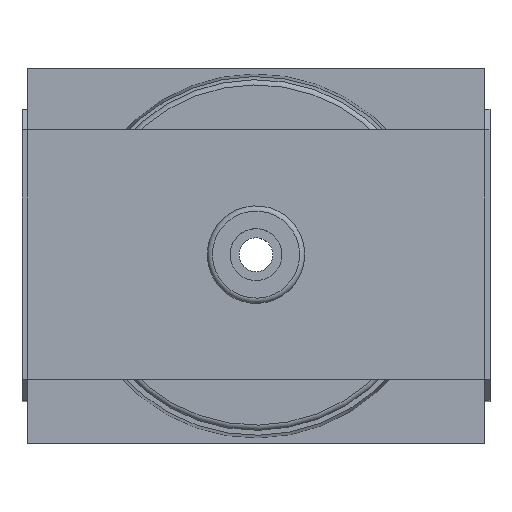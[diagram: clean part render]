
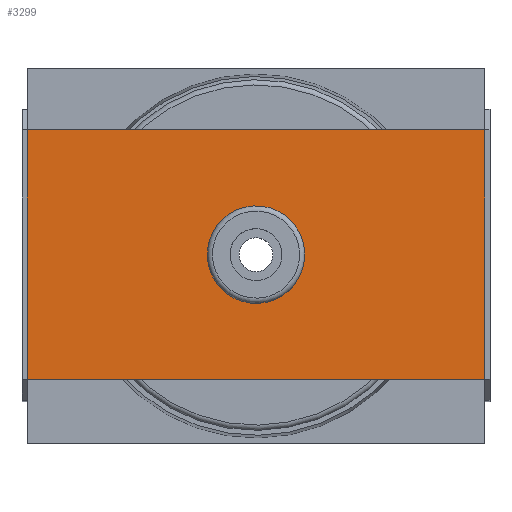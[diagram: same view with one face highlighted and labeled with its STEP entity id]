
A CAD part, top view. The second image highlights one B-rep face of the part: STEP entity #3299.
In plain terms, the highlighted planar face has unit normal (0, 0, 1).
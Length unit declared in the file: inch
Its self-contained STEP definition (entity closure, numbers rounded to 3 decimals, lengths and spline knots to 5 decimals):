
#115=FACE_BOUND('',#606,.T.);
#242=PLANE('',#3502);
#400=FACE_OUTER_BOUND('',#605,.T.);
#605=EDGE_LOOP('',(#2392,#2393,#2394,#2395));
#606=EDGE_LOOP('',(#2396));
#883=LINE('',#21129,#1127);
#885=LINE('',#21133,#1129);
#886=LINE('',#21135,#1130);
#887=LINE('',#21136,#1131);
#1127=VECTOR('',#3902,11.);
#1129=VECTOR('',#3906,6.);
#1130=VECTOR('',#3907,11.);
#1131=VECTOR('',#3908,6.);
#1299=CIRCLE('',#3491,0.9375);
#1470=VERTEX_POINT('',#21090);
#1483=VERTEX_POINT('',#21126);
#1484=VERTEX_POINT('',#21128);
#1485=VERTEX_POINT('',#21132);
#1486=VERTEX_POINT('',#21134);
#1807=EDGE_CURVE('',#1470,#1470,#1299,.T.);
#1825=EDGE_CURVE('',#1484,#1483,#883,.T.);
#1827=EDGE_CURVE('',#1483,#1485,#885,.T.);
#1828=EDGE_CURVE('',#1486,#1485,#886,.T.);
#1829=EDGE_CURVE('',#1484,#1486,#887,.T.);
#2392=ORIENTED_EDGE('',*,*,#1827,.T.);
#2393=ORIENTED_EDGE('',*,*,#1828,.F.);
#2394=ORIENTED_EDGE('',*,*,#1829,.F.);
#2395=ORIENTED_EDGE('',*,*,#1825,.T.);
#2396=ORIENTED_EDGE('',*,*,#1807,.T.);
#3299=ADVANCED_FACE('',(#400,#115),#242,.T.);
#3491=AXIS2_PLACEMENT_3D('',#21091,#3867,#3868);
#3502=AXIS2_PLACEMENT_3D('',#21131,#3904,#3905);
#3867=DIRECTION('center_axis',(0.,0.,-1.));
#3868=DIRECTION('ref_axis',(-1.,0.,0.));
#3902=DIRECTION('',(-1.,0.,0.));
#3904=DIRECTION('center_axis',(0.,0.,1.));
#3905=DIRECTION('ref_axis',(-1.,0.,0.));
#3906=DIRECTION('',(0.,-1.,0.));
#3907=DIRECTION('',(-1.,0.,0.));
#3908=DIRECTION('',(0.,-1.,0.));
#21090=CARTESIAN_POINT('',(-0.9375,0.,0.));
#21091=CARTESIAN_POINT('Origin',(0.,0.,0.));
#21126=CARTESIAN_POINT('',(-5.5,3.,0.));
#21128=CARTESIAN_POINT('',(5.5,3.,0.));
#21129=CARTESIAN_POINT('',(5.5,3.,0.));
#21131=CARTESIAN_POINT('Origin',(5.5,3.,0.));
#21132=CARTESIAN_POINT('',(-5.5,-3.,0.));
#21133=CARTESIAN_POINT('',(-5.5,1.5,0.));
#21134=CARTESIAN_POINT('',(5.5,-3.,0.));
#21135=CARTESIAN_POINT('',(5.5,-3.,0.));
#21136=CARTESIAN_POINT('',(5.5,1.5,0.));
